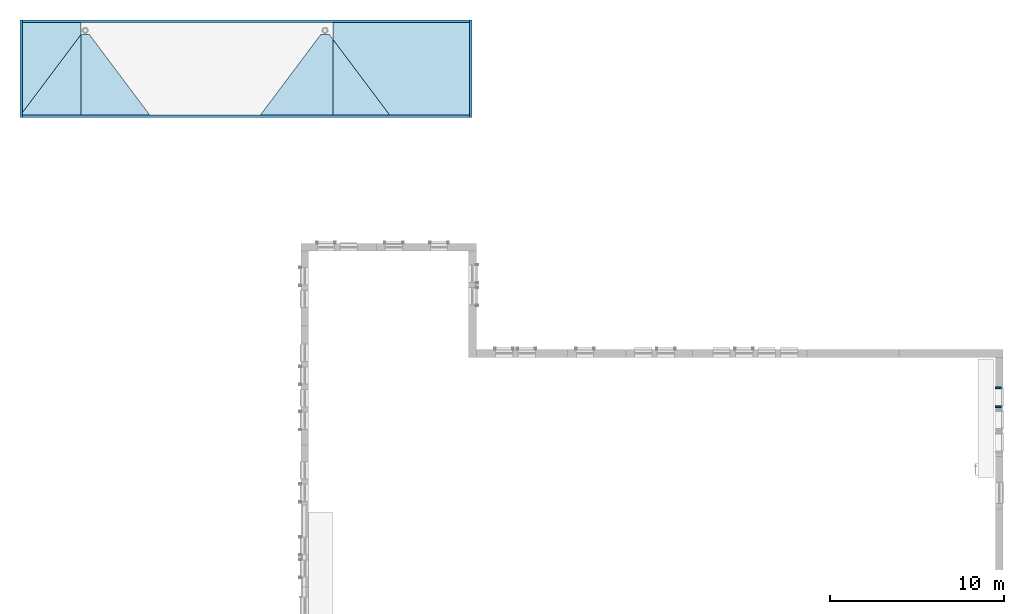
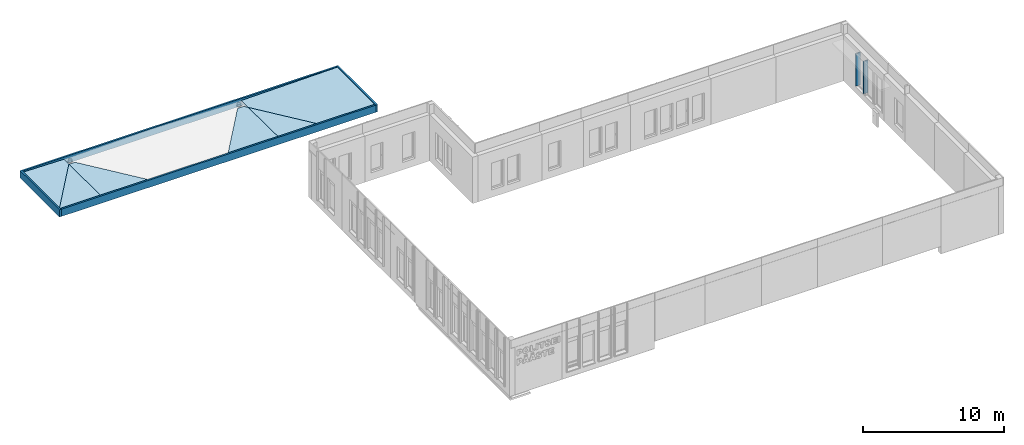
# One storey, part 28 of 33: 6 roofs, 6 walls.
"""IFC2X3 building model written with IfcOpenShell, lengths in millimetres."""

from ifc_helpers import new_model, entity, si_unit, converted_unit, derived_unit, direction, frame, frame_2d, origin, place, context, subcontext, project, spatial, rectangle, extrude, faceted_brep, material, layer, layer_set, layer_usage, type_object, element, save


model = new_model("IFC2X3")

# Units and contexts
model_context = context("Model", 3, precision=0.01, world=origin(), true_north=direction((6.12303176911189e-17, 1.0)))
body_context = subcontext(model_context, "Body", "Model", "MODEL_VIEW")
ifc_project = project(units=[si_unit("LENGTHUNIT", "METRE", prefix="MILLI"), si_unit("AREAUNIT", "SQUARE_METRE"), si_unit("VOLUMEUNIT", "CUBIC_METRE"), converted_unit("PLANEANGLEUNIT", "DEGREE", entity("IfcRatioMeasure", 0.0174532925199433), si_unit("PLANEANGLEUNIT", "RADIAN"), dimensions=[0, 0, 0, 0, 0, 0, 0]), si_unit("MASSUNIT", "GRAM", prefix="KILO"), derived_unit("MASSDENSITYUNIT", [(si_unit("MASSUNIT", "GRAM", prefix="KILO"), 1), (si_unit("LENGTHUNIT", "METRE"), -3)]), si_unit("TIMEUNIT", "SECOND"), si_unit("FREQUENCYUNIT", "HERTZ"), si_unit("THERMODYNAMICTEMPERATUREUNIT", "DEGREE_CELSIUS"), derived_unit("THERMALTRANSMITTANCEUNIT", [(si_unit("MASSUNIT", "GRAM", prefix="KILO"), 1), (si_unit("THERMODYNAMICTEMPERATUREUNIT", "KELVIN"), -1), (si_unit("TIMEUNIT", "SECOND"), -3)]), derived_unit("VOLUMETRICFLOWRATEUNIT", [(si_unit("LENGTHUNIT", "METRE"), 3), (si_unit("TIMEUNIT", "SECOND"), -1)]), si_unit("ELECTRICCURRENTUNIT", "AMPERE"), si_unit("ELECTRICVOLTAGEUNIT", "VOLT"), si_unit("POWERUNIT", "WATT"), si_unit("FORCEUNIT", "NEWTON", prefix="KILO"), si_unit("ILLUMINANCEUNIT", "LUX"), si_unit("LUMINOUSFLUXUNIT", "LUMEN"), si_unit("LUMINOUSINTENSITYUNIT", "CANDELA"), derived_unit("USERDEFINED", [(si_unit("MASSUNIT", "GRAM", prefix="KILO"), -1), (si_unit("LENGTHUNIT", "METRE"), -2), (si_unit("TIMEUNIT", "SECOND"), 3), (si_unit("LUMINOUSFLUXUNIT", "LUMEN"), 1)]), derived_unit("LINEARVELOCITYUNIT", [(si_unit("LENGTHUNIT", "METRE"), 1), (si_unit("TIMEUNIT", "SECOND"), -1)]), si_unit("PRESSUREUNIT", "PASCAL"), derived_unit("USERDEFINED", [(si_unit("LENGTHUNIT", "METRE"), -2), (si_unit("MASSUNIT", "GRAM", prefix="KILO"), 1), (si_unit("TIMEUNIT", "SECOND"), -2)])], contexts=[model_context])

# Site, building, storey
site_placement = place(None, origin())
site = spatial("IfcSite", under=ifc_project, at=site_placement, Name="Default", CompositionType="ELEMENT")
building_placement = place(site_placement, origin())
building = spatial("IfcBuilding", under=site, at=building_placement, CompositionType="ELEMENT")
storey_placement = place(building_placement, frame((0.0, 0.0, 4000.0)))
storey = spatial("IfcBuildingStorey", under=building, at=storey_placement, Name="2. KORRUS", CompositionType="ELEMENT", Elevation=4000.0)

# Walls
ifc_material_1 = material(Name="Must-al-komposiitplaat")
ifc_layer_1 = layer(ifc_material_1, 5.0)
ifc_material_2 = material(Name="Õhkvahe- hor roovid")
ifc_layer_2 = layer(ifc_material_2, 20.0)
ifc_material_3 = material(Name="Õhkvahe- vert roovid")
ifc_layer_3 = layer(ifc_material_3, 100.0)
ifc_material_4 = material(Name="Vineer")
ifc_layer_4 = layer(ifc_material_4, 15.0)
ifc_layer_set_1 = layer_set([ifc_layer_1, ifc_layer_2, ifc_layer_3, ifc_layer_4], Name="Basic Wall:varikatuse serv")
ifc_layer_usage_1 = layer_usage(ifc_layer_set_1, "AXIS2", "POSITIVE", -70.0)
wall_type_1 = type_object("IfcWallType", Name="Basic Wall:varikatuse serv", PredefinedType="STANDARD", material=ifc_layer_set_1)
wall_1_placement = place(storey_placement, frame((-16530.2351867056, 40899.9994344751, -630.0), z_axis=(0.0, 0.0, 1.0), x_axis=(0.0, -1.0, 0.0)))
element("IfcWallStandardCase", 1, at=wall_1_placement, inside=storey, type_object=wall_type_1, material=ifc_layer_usage_1, Name="Basic Wall:varikatuse serv", ObjectType="Basic Wall:varikatuse serv", context=body_context, shape_type="SweptSolid", body=[
    extrude(rectangle(XDim=5599.99999999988, YDim=139.999999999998, at=frame_2d((2799.99999999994, 2.8421709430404e-14), x_axis=(-1.0, 0.0))), origin(), (0.0, 0.0, 1.0), 630.0),
])
ifc_layer_usage_2 = layer_usage(ifc_layer_set_1, "AXIS2", "NEGATIVE", 70.0)
wall_2_placement = place(storey_placement, frame((-16460.2351867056, 40829.9994344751, -630.0)))
element("IfcWallStandardCase", 2, at=wall_2_placement, inside=storey, type_object=wall_type_1, material=ifc_layer_usage_2, Name="Basic Wall:varikatuse serv", ObjectType="Basic Wall:varikatuse serv", context=body_context, shape_type="SweptSolid", body=[
    extrude(rectangle(XDim=25720.2593711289, YDim=140.000000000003, at=frame_2d((12860.1296855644, 2.41584530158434e-13), x_axis=(-1.0, 0.0))), origin(), (0.0, 0.0, 1.0), 630.0),
])
ifc_layer_usage_3 = layer_usage(ifc_layer_set_1, "AXIS2", "NEGATIVE", 70.0)
wall_3_placement = place(storey_placement, frame((9260.02418442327, 35369.9994344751, -630.0), z_axis=(0.0, 0.0, 1.0), x_axis=(-1.0, 0.0, 0.0)))
element("IfcWallStandardCase", 3, at=wall_3_placement, inside=storey, type_object=wall_type_1, material=ifc_layer_usage_3, Name="Basic Wall:varikatuse serv", ObjectType="Basic Wall:varikatuse serv", context=body_context, shape_type="SweptSolid", body=[
    extrude(rectangle(XDim=25720.2593711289, YDim=140.000000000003, at=frame_2d((12860.1296855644, -1.20792265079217e-13), x_axis=(-1.0, 0.0))), origin(), (0.0, 0.0, 1.0), 630.0),
])
ifc_layer_usage_4 = layer_usage(ifc_layer_set_1, "AXIS2", "NEGATIVE", 70.0)
wall_4_placement = place(storey_placement, frame((9330.02418442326, 40899.9994344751, -630.0), z_axis=(0.0, 0.0, 1.0), x_axis=(0.0, -1.0, 0.0)))
element("IfcWallStandardCase", 4, at=wall_4_placement, inside=storey, type_object=wall_type_1, material=ifc_layer_usage_4, Name="Basic Wall:varikatuse serv", ObjectType="Basic Wall:varikatuse serv", context=body_context, shape_type="SweptSolid", body=[
    extrude(rectangle(XDim=5600.00000000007, YDim=140.000000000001, at=frame_2d((2800.00000000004, -2.8421709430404e-14), x_axis=(-1.0, 0.0))), origin(), (0.0, 0.0, 1.0), 630.0),
])
ifc_material_5 = material(Name="Soojusisolatsioon PIR fooliumkattega")
ifc_layer_5 = layer(ifc_material_5, 100.0)
ifc_layer_set_2 = layer_set([ifc_layer_5], Name="Basic Wall:VS-4")
ifc_layer_usage_5 = layer_usage(ifc_layer_set_2, "AXIS2", "NEGATIVE", 50.0)
wall_type_2 = type_object("IfcWallType", Name="Basic Wall:VS-4", PredefinedType="STANDARD", material=ifc_layer_set_2)
wall_5_placement = place(storey_placement, frame((39500.0, 18650.0, 500.0)))
element("IfcWallStandardCase", 5, at=wall_5_placement, inside=storey, type_object=wall_type_2, material=ifc_layer_usage_5, Name="Basic Wall:VS-4", ObjectType="Basic Wall:VS-4", context=body_context, shape_type="SweptSolid", body=[
    extrude(rectangle(XDim=349.999999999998, YDim=99.9999999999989, at=frame_2d((174.999999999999, 0.0), x_axis=(-1.0, 0.0))), origin(), (0.0, 0.0, 1.0), 2800.0),
])
ifc_layer_usage_6 = layer_usage(ifc_layer_set_2, "AXIS2", "NEGATIVE", 50.0)
wall_6_placement = place(storey_placement, frame((39500.0, 19750.0, 500.0)))
element("IfcWallStandardCase", 6, at=wall_6_placement, inside=storey, type_object=wall_type_2, material=ifc_layer_usage_6, Name="Basic Wall:VS-4", ObjectType="Basic Wall:VS-4", context=body_context, shape_type="SweptSolid", body=[
    extrude(rectangle(XDim=349.999999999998, YDim=100.000000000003, at=frame_2d((174.999999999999, 0.0), x_axis=(-1.0, 0.0))), origin(), (0.0, 0.0, 1.0), 2800.0),
])

# Roofs
ifc_material_6 = material(Name="Soojusisolatsioon EPS")
roof_1_placement = place(storey_placement, frame((1399.76999999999, 35439.9994344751, -380.0)))
element("IfcRoof", 7, at=roof_1_placement, inside=storey, material=ifc_material_6, Name="Basic Roof:varjualune_pvc-eps", ObjectType="Basic Roof:varjualune_pvc-eps", ShapeType="NOTDEFINED", context=body_context, shape_type="Brep", body=[
    faceted_brep([(7860.25418442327, 5320.0, 0.0), (7860.25418442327, 0.0, 0.0), (3256.25000000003, 0.0, 0.0), (0.0, 4341.66666666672, 0.0), (0.0, 5320.0, 0.0), (0.0, 5320.0, 213.199999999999), (7860.25418442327, 5320.0, 344.0), (7860.25418442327, 0.0, 344.0), (3256.25000000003, 0.0, 267.386224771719), (0.0, 4341.66666666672, 213.199999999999)], [[[0, 1, 2, 3, 4]], [[0, 4, 5, 6]], [[1, 0, 6, 7]], [[1, 7, 8, 2]], [[5, 4, 3, 9]], [[7, 6, 5, 9, 8]], [[3, 2, 8, 9]]]),
])
roof_2_placement = place(storey_placement, frame((-16460.2351867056, 35575.449378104, -380.0)))
element("IfcRoof", 8, at=roof_2_placement, inside=storey, material=ifc_material_6, Name="Basic Roof:varjualune_pvc-eps", ObjectType="Basic Roof:varjualune_pvc-eps", ShapeType="NOTDEFINED", context=body_context, shape_type="Brep", body=[
    faceted_brep([(0.0, 5184.55005637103, 0.0), (3360.00301480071, 5184.55005637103, 0.0), (3360.00301480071, 4480.00401973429, 0.0), (0.0, 0.0, 0.0), (3360.00301480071, 5184.55005637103, 210.0), (3360.00301480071, 4480.00401973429, 210.0), (0.0, 5184.55005637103, 266.0), (0.0, 0.0, 266.0)], [[[0, 1, 2, 3]], [[1, 4, 5, 2]], [[1, 0, 6, 4]], [[6, 0, 3, 7]], [[4, 6, 7, 5]], [[3, 2, 5, 7]]]),
])
roof_3_placement = place(storey_placement, frame((-13100.2336642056, 35439.9993553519, -200.0)))
element("IfcRoof", 9, at=roof_3_placement, inside=storey, material=ifc_material_6, Name="Basic Roof:varjualune_pvc-eps", ObjectType="Basic Roof:varjualune_pvc-eps", ShapeType="NOTDEFINED", context=body_context, shape_type="Brep", body=[
    faceted_brep([(0.0, 4615.45205275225, 0.0), (499.999303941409, 4615.45205275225, 0.0), (3961.58898022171, 7.91232689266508e-05, 0.0), (0.0, 7.91232819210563e-05, 0.0), (499.999189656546, 4615.45220513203, 30.0190201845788), (3.21628863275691e-07, 4615.45197362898, 29.9936599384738), (3961.58898054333, 7.91232689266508e-05, 87.7949570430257), (499.999302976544, 4615.45229012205, 30.0190201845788), (0.0, 0.0, 87.5939917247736), (3961.58898054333, 0.0, 87.7949570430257), (3.21628863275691e-07, 4615.45205275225, 29.9936599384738)], [[[0, 1, 2, 3]], [[4, 1, 0, 5]], [[6, 2, 1, 7]], [[8, 3, 2, 9]], [[10, 0, 3, 8]], [[5, 8, 9, 7]]]),
])
roof_4_placement = place(storey_placement, frame((-16460.2351871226, 35439.9994344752, -380.0)))
element("IfcRoof", 10, at=roof_4_placement, inside=storey, material=ifc_material_6, Name="Basic Roof:varjualune_pvc-eps", ObjectType="Basic Roof:varjualune_pvc-eps", ShapeType="NOTDEFINED", context=body_context, shape_type="Brep", body=[
    faceted_brep([(3360.00152291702, 4615.45197362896, 0.0), (3360.00152291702, 0.0, 0.0), (4.1695149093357e-07, 0.0, 0.0), (4.1695149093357e-07, 135.449943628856, 0.0), (3360.00152291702, 4615.45197362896, 210.0), (3360.00152291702, 0.0, 267.6003317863), (4.1695149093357e-07, 0.0, 267.600009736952), (4.1695149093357e-07, 135.449943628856, 265.909609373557)], [[[0, 1, 2, 3]], [[1, 0, 4, 5]], [[1, 5, 6, 2]], [[4, 0, 3, 7]], [[5, 4, 7, 6]], [[3, 2, 6, 7]]]),
])
roof_5_placement = place(storey_placement, frame((-2766.48000102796, 35439.9994323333, -200.0)))
element("IfcRoof", 11, at=roof_5_placement, inside=storey, material=ifc_material_6, Name="Basic Roof:varjualune_pvc-eps", ObjectType="Basic Roof:varjualune_pvc-eps", ShapeType="NOTDEFINED", context=body_context, shape_type="Brep", body=[
    faceted_brep([(1.02798525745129e-06, 2.14176824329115e-06, 0.0), (3461.25000102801, 4615.0, 0.0), (3961.25000102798, 4615.0, 0.0), (4166.24481432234, 4341.67358441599, 0.0), (4166.24481432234, 2.1417552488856e-06, 0.0), (3461.25000102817, 4615.0, 29.9998289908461), (3961.24999807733, 4615.0, 30.000314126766), (4166.2448143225, 2.1417552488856e-06, 87.799828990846), (4166.24481432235, 4341.67358441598, 33.4237156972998), (1.0281520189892e-06, 0.0, 87.7957859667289)], [[[0, 1, 2, 3, 4]], [[1, 5, 6, 2]], [[7, 4, 3, 8]], [[0, 4, 7, 9]], [[1, 0, 9, 5]], [[5, 9, 7, 8, 6]], [[3, 2, 6, 8]]]),
])
roof_6_placement = place(storey_placement, frame((1399.76481329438, 35439.9994344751, -380.0)))
element("IfcRoof", 12, at=roof_6_placement, inside=storey, material=ifc_material_6, Name="Basic Roof:varjualune_pvc-eps", ObjectType="Basic Roof:varjualune_pvc-eps", ShapeType="NOTDEFINED", context=body_context, shape_type="Brep", body=[
    faceted_brep([(0.0, 0.0, 0.0), (0.0, 4341.67358227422, 0.0), (3256.25518670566, 0.0, 0.0), (0.0, 4341.67358227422, 213.2), (0.0, 0.0, 267.4), (3256.25518670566, 0.0, 267.386224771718)], [[[0, 1, 2]], [[3, 1, 0, 4]], [[5, 2, 1, 3]], [[4, 0, 2, 5]], [[4, 5, 3]]]),
])

save(model, "model.ifc")
